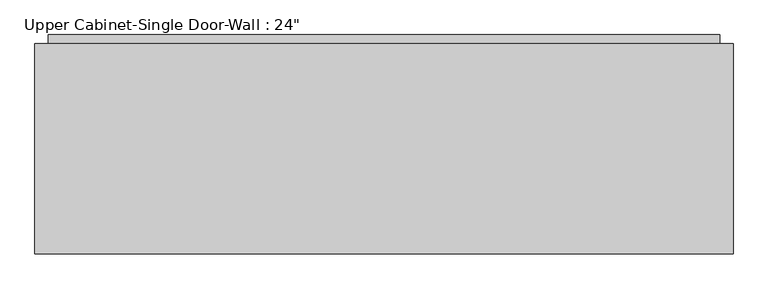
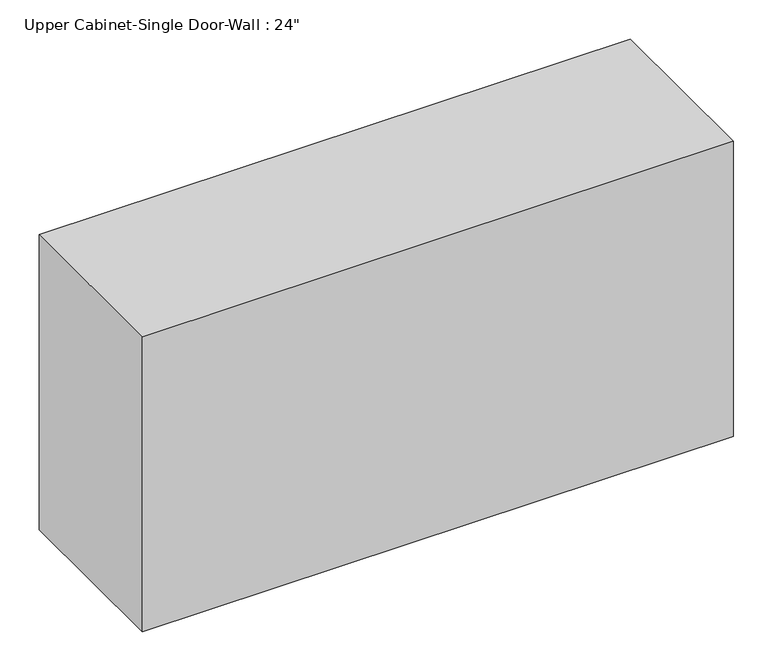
"""IFC4 building model written with IfcOpenShell, lengths in millimetres: furniture geometry."""

import ifcopenshell
import ifcopenshell.guid

model = None  # the IFC model being written
_history = None  # IfcOwnerHistory: only IFC2X3 demands one
_inside = {}  # id of a spatial element -> (the spatial element, [elements in it])
_under = {}  # id of a project, library or spatial element -> (it, [spatial elements below it])
_declared = {}  # id of a project -> (the project, [libraries it declares])
_typed = {}  # id of a type object -> (the type object, [elements of that type])
_made_of = {}  # id of a material, layer set ... -> (it, [elements and type objects made of it])


def new_model(schema):
    """Start an empty IFC model of exactly this schema.

    Asked for "IFC4X3", IfcOpenShell would pick the latest addendum, in which some entities
    have other attributes; the version numbers below select the first issue.
    IFC2X3 requires an IfcOwnerHistory on every rooted entity: one is made here for all.
    """
    global model, _history
    if schema == "IFC4X3":
        model = ifcopenshell.file(schema_version=(4, 3, 0, 0))
    else:
        model = ifcopenshell.file(schema=schema)
    _inside.clear()
    _under.clear()
    _declared.clear()
    _typed.clear()
    _made_of.clear()
    _history = None
    if model.schema == "IFC2X3":
        org = make("IfcOrganization", Name="unknown")
        user = make(
            "IfcPersonAndOrganization",
            ThePerson=make("IfcPerson", FamilyName="unknown"),
            TheOrganization=org,
        )
        app = make(
            "IfcApplication",
            ApplicationDeveloper=org,
            Version="unknown",
            ApplicationFullName="unknown",
            ApplicationIdentifier="unknown",
        )
        _history = make(
            "IfcOwnerHistory",
            OwningUser=user,
            OwningApplication=app,
            ChangeAction="ADDED",
            CreationDate=0,
        )
    return model


def make(cls, **values):
    """One entity of the class cls with the attributes given. An attribute that is None is left unset."""
    return model.create_entity(
        cls, **{name: value for name, value in values.items() if value is not None}
    )


def rooted(cls, **values):
    """An entity with a GlobalId (a new one), such as an element, a storey or a relation."""
    return make(cls, GlobalId=ifcopenshell.guid.new(), OwnerHistory=_history, **values)


def si_unit(unit_type, name, prefix=None):
    """IfcSIUnit, for example si_unit("LENGTHUNIT", "METRE", prefix="MILLI")."""
    return make("IfcSIUnit", UnitType=unit_type, Prefix=prefix, Name=name)


def assignment(units):
    """IfcUnitAssignment: the units of a project."""
    return None if units is None else make("IfcUnitAssignment", Units=units)


def point(xyz):
    """IfcCartesianPoint."""
    return None if xyz is None else make("IfcCartesianPoint", Coordinates=xyz)


def direction(xyz):
    """IfcDirection."""
    return None if xyz is None else make("IfcDirection", DirectionRatios=xyz)


def frame(location, z_axis=None, x_axis=None):
    """IfcAxis2Placement3D, a coordinate frame: its origin and axes. An axis left out is left unset."""
    return make(
        "IfcAxis2Placement3D",
        Location=point(location),
        Axis=direction(z_axis),
        RefDirection=direction(x_axis),
    )


def origin():
    """The frame at (0, 0, 0) with its axes left unset."""
    return frame((0.0, 0.0, 0.0))


def place(relative_to, where):
    """IfcLocalPlacement: puts the frame where relative to a parent placement (None: the world)."""
    return make(
        "IfcLocalPlacement", PlacementRelTo=relative_to, RelativePlacement=where
    )


def context(
    kind, dimensions, precision=None, world=None, true_north=None, identifier=None
):
    """IfcGeometricRepresentationContext, for example the 3D "Model" context."""
    return make(
        "IfcGeometricRepresentationContext",
        ContextIdentifier=identifier,
        ContextType=kind,
        CoordinateSpaceDimension=dimensions,
        Precision=precision,
        WorldCoordinateSystem=world,
        TrueNorth=true_north,
    )


def project(units=None, contexts=None):
    """IfcProject with its units and contexts."""
    return rooted(
        "IfcProject",
        Name="project",
        RepresentationContexts=contexts,
        UnitsInContext=assignment(units),
    )


def spatial(cls, under=None, at=None, **own):
    """A site, building, storey or space (cls), placed at a placement, below another one or the project."""
    s = rooted(cls, ObjectPlacement=at, **own)
    if under is not None:
        _under.setdefault(under.id(), (under, []))[1].append(s)
    return s


def polyline(points):
    """IfcPolyline through the points."""
    return make("IfcPolyline", Points=[point(p) for p in points])


def outline(outer, holes=None, kind="AREA"):
    """IfcArbitraryClosedProfileDef: a profile drawn as a closed curve; with holes, ...WithVoids."""
    if holes is None:
        return make("IfcArbitraryClosedProfileDef", ProfileType=kind, OuterCurve=outer)
    return make(
        "IfcArbitraryProfileDefWithVoids",
        ProfileType=kind,
        OuterCurve=outer,
        InnerCurves=holes,
    )


def extrude(swept, where, along, depth):
    """IfcExtrudedAreaSolid: the profile swept, set in the frame where, extruded along a direction by depth."""
    return make(
        "IfcExtrudedAreaSolid",
        SweptArea=swept,
        Position=where,
        ExtrudedDirection=direction(along),
        Depth=depth,
    )


def faces_of(points, faces, orient=None, outer=None):
    """IfcFace entities. A face is a list of loops; a loop is a list of indices into points, from 0.

    orient and outer hold one flag for each loop. By default every Orientation is true, the
    first loop of a face is its IfcFaceOuterBound and the others are IfcFaceBound.
    """
    made = []
    for i, loops in enumerate(faces):
        bounds = []
        for j, loop in enumerate(loops):
            is_outer = j == 0 if outer is None else outer[i][j]
            bounds.append(
                make(
                    "IfcFaceOuterBound" if is_outer else "IfcFaceBound",
                    Bound=make("IfcPolyLoop", Polygon=[points[k] for k in loop]),
                    Orientation=True if orient is None else orient[i][j],
                )
            )
        made.append(make("IfcFace", Bounds=bounds))
    return made


def faceted_brep(points, faces, orient=None, outer=None, voids=None):
    """IfcFacetedBrep: a solid bounded by flat faces; with voids (closed shells), ...WithVoids."""
    shared = [point(p) for p in points]
    hull = make("IfcClosedShell", CfsFaces=faces_of(shared, faces, orient, outer))
    if voids is None:
        return make("IfcFacetedBrep", Outer=hull)
    return make(
        "IfcFacetedBrepWithVoids",
        Outer=hull,
        Voids=[
            make(cls, CfsFaces=faces_of(shared, fs, o, b)) for cls, fs, o, b in voids
        ],
    )


def shape(context_of_items, identifier, shape_type, items):
    """IfcShapeRepresentation: the items that make up one representation, for example the "Body"."""
    return make(
        "IfcShapeRepresentation",
        ContextOfItems=context_of_items,
        RepresentationIdentifier=identifier,
        RepresentationType=shape_type,
        Items=items,
    )


def source(mapping_origin, context_of_items, identifier, shape_type, items):
    """IfcRepresentationMap: a shape defined once, which mapped items show again and again."""
    return make(
        "IfcRepresentationMap",
        MappingOrigin=mapping_origin,
        MappedRepresentation=shape(context_of_items, identifier, shape_type, items),
    )


def transform(
    local_origin,
    x_axis=None,
    y_axis=None,
    z_axis=None,
    scale=None,
    scale2=None,
    scale3=None,
    uniform=True,
):
    """IfcCartesianTransformationOperator3D, or its non-uniform kind. x_axis, y_axis, z_axis: its Axis1, 2, 3."""
    if uniform:
        return make(
            "IfcCartesianTransformationOperator3D",
            Axis1=direction(x_axis),
            Axis2=direction(y_axis),
            LocalOrigin=point(local_origin),
            Scale=scale,
            Axis3=direction(z_axis),
        )
    return make(
        "IfcCartesianTransformationOperator3DnonUniform",
        Axis1=direction(x_axis),
        Axis2=direction(y_axis),
        LocalOrigin=point(local_origin),
        Scale=scale,
        Axis3=direction(z_axis),
        Scale2=scale2,
        Scale3=scale3,
    )


def mapped(mapping_source, mapping_target):
    """IfcMappedItem: shows the shape of a source again, moved by a transform."""
    return make(
        "IfcMappedItem", MappingSource=mapping_source, MappingTarget=mapping_target
    )


def made_of(thing, what):
    """Note that an element or type object is made of a material, layer set ...; save() writes the relation."""
    if what is not None:
        _made_of.setdefault(what.id(), (what, []))[1].append(thing)
    return thing


def element(
    cls,
    number,
    at=None,
    inside=None,
    cuts=None,
    type_object=None,
    material=None,
    context=None,
    identifier="Body",
    shape_type=None,
    held_by="IfcProductDefinitionShape",
    body=None,
    shapes=None,
    **own,
):
    """One element of the class cls, such as IfcWall. Its Tag is "e" and its number.

    at: its placement. inside: the storey or other place that contains it. cuts: it is an
    opening in that element (IfcRelVoidsElement). A single representation is given by context,
    identifier, shape_type and body (its items); several are given by shapes. held_by: the class
    of the entity that holds the representations. save() writes the other relations.
    """
    e = rooted(cls, Tag="e%d" % number, ObjectPlacement=at, **own)
    if body is not None:
        shapes = [shape(context, identifier, shape_type, body)]
    if shapes is not None:
        e.Representation = make(held_by, Representations=shapes)
    if inside is not None:
        _inside.setdefault(inside.id(), (inside, []))[1].append(e)
    if cuts is not None:
        rooted(
            "IfcRelVoidsElement", RelatingBuildingElement=cuts, RelatedOpeningElement=e
        )
    if type_object is not None:
        _typed.setdefault(type_object.id(), (type_object, []))[1].append(e)
    return made_of(e, material)


def aggregate(whole, parts):
    """IfcRelAggregates: a whole, such as a stair, and the parts it consists of."""
    return rooted("IfcRelAggregates", RelatingObject=whole, RelatedObjects=parts)


def save(model, path):
    """Write the relations noted so far, then the file.

    IfcRelAggregates (storeys below a building ...), IfcRelContainedInSpatialStructure (elements
    in a storey), IfcRelDefinesByType, IfcRelAssociatesMaterial and IfcRelDeclares: one each for
    every whole, place, type object, material and project.
    """
    for whole, parts in _under.values():
        aggregate(whole, parts)
    for where, things in _inside.values():
        rooted(
            "IfcRelContainedInSpatialStructure",
            RelatedElements=things,
            RelatingStructure=where,
        )
    for kind, things in _typed.values():
        rooted("IfcRelDefinesByType", RelatedObjects=things, RelatingType=kind)
    for what, things in _made_of.values():
        rooted("IfcRelAssociatesMaterial", RelatedObjects=things, RelatingMaterial=what)
    for by, libraries in _declared.values():
        rooted("IfcRelDeclares", RelatingContext=by, RelatedDefinitions=libraries)
    model.write(path)


def furniture_75251511(model_context):
    return source(origin(), model_context, "Body", "SolidModel", [
        faceted_brep([(-751.7124125, 76.2, 2133.6), (-751.7124125, 76.2, 1600.2), (258.3711628, 76.2, 1600.2), (258.3711628, 76.2, 2133.6), (-751.7124125, 381.0, 2133.6), (258.3711628, 381.0, 2133.6), (258.3711628, 381.0, 1600.2), (-751.7124125, 381.0, 1600.2), (-732.6624125, 381.0, 2114.55), (-732.6624125, 381.0, 1619.25), (239.3211628, 381.0, 1619.25), (239.3211628, 381.0, 2114.55), (239.3211628, 95.25, 2114.55), (-732.6624125, 95.25, 2114.55), (239.3211628, 95.25, 1619.25), (-732.6624125, 95.25, 1619.25)], [[[0, 1, 2, 3]], [[4, 5, 6, 7], [8, 9, 10, 11]], [[1, 0, 4, 7]], [[2, 1, 7, 6]], [[3, 2, 6, 5]], [[0, 3, 5, 4]], [[8, 11, 12, 13]], [[11, 10, 14, 12]], [[10, 9, 15, 14]], [[9, 8, 13, 15]], [[13, 12, 14, 15]]]),
        extrude(outline(polyline([(-732.6624125, 393.7), (239.3211628, 393.7), (239.3211628, 361.95), (-732.6624125, 361.95), (-732.6624125, 393.7)])), frame((0.0, 0.0, 1619.25), z_axis=(0.0, 0.0, 1.0), x_axis=(1.0, 0.0, 0.0)), (0.0, 0.0, 1.0), 495.3),
    ])


if __name__ == "__main__":
    model = new_model("IFC4")
    model_context = context("Model", 3, world=origin())
    ifc_project = project(units=[si_unit("LENGTHUNIT", "METRE", prefix="MILLI")], contexts=[model_context])
    site = spatial("IfcSite", under=ifc_project)
    building = spatial("IfcBuilding", under=site)
    placement = place(None, origin())
    furniture_shape = furniture_75251511(model_context)
    element("IfcFurniture", 1, ObjectType="Upper Cabinet-Single Door-Wall : 24\"", at=placement, inside=building, context=model_context, shape_type="MappedRepresentation", body=[
        mapped(furniture_shape, transform((0.0, 0.0, 0.0), x_axis=(1.0, 0.0, 0.0), y_axis=(0.0, 1.0, 0.0), z_axis=(0.0, 0.0, 1.0))),
    ])
    save(model, "model.ifc")
